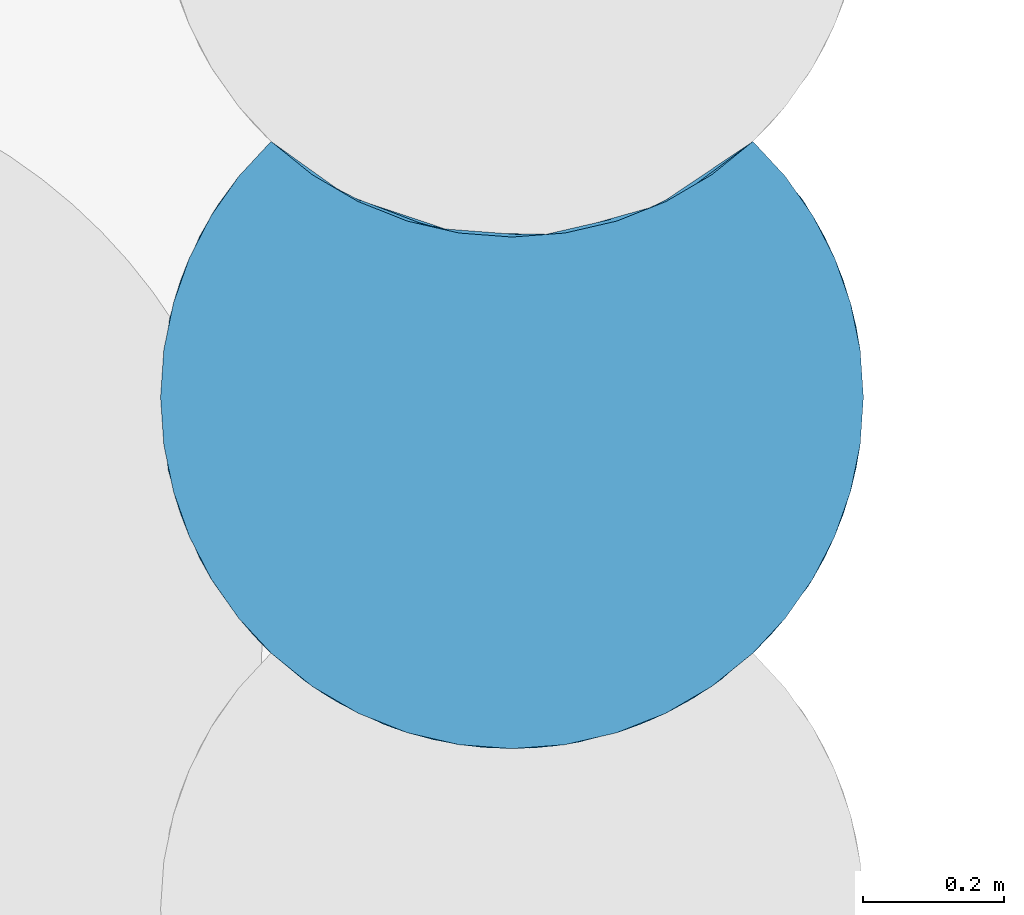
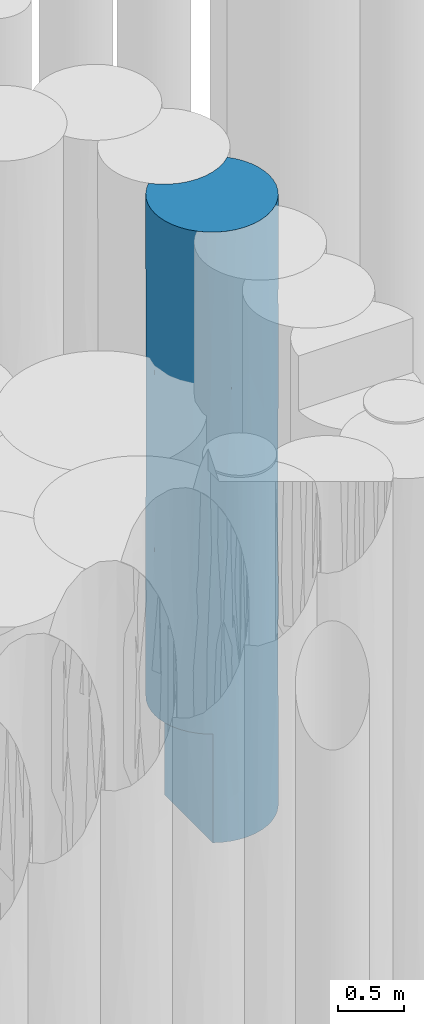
# One storey, part 44 of 104: 1 pile.
"""IFC2X3 building model written with IfcOpenShell, lengths in millimetres."""

from ifc_helpers import new_model, entity, si_unit, converted_unit, derived_unit, direction, frame, origin, place, context, subcontext, project, spatial, faceted_brep, source, transform, mapped, material, element, save


model = new_model("IFC2X3")

# Units and contexts
model_context = context("Model", 3, precision=0.01, world=origin(), true_north=direction((6.12303176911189e-17, 1.0)))
body_context = subcontext(model_context, "Body", "Model", "MODEL_VIEW")
ifc_project = project(units=[si_unit("LENGTHUNIT", "METRE", prefix="MILLI"), si_unit("AREAUNIT", "SQUARE_METRE", prefix="MILLI"), si_unit("VOLUMEUNIT", "CUBIC_METRE"), converted_unit("PLANEANGLEUNIT", "DEGREE", entity("IfcRatioMeasure", 0.0174532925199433), si_unit("PLANEANGLEUNIT", "RADIAN"), dimensions=[0, 0, 0, 0, 0, 0, 0]), si_unit("MASSUNIT", "GRAM", prefix="KILO"), derived_unit("MASSDENSITYUNIT", [(si_unit("MASSUNIT", "GRAM", prefix="KILO"), 1), (si_unit("LENGTHUNIT", "METRE"), -3)]), derived_unit("MOMENTOFINERTIAUNIT", [(si_unit("LENGTHUNIT", "METRE"), 4)]), si_unit("TIMEUNIT", "SECOND"), si_unit("FREQUENCYUNIT", "HERTZ"), si_unit("THERMODYNAMICTEMPERATUREUNIT", "DEGREE_CELSIUS"), derived_unit("THERMALTRANSMITTANCEUNIT", [(si_unit("MASSUNIT", "GRAM", prefix="KILO"), 1), (si_unit("THERMODYNAMICTEMPERATUREUNIT", "KELVIN"), -1), (si_unit("TIMEUNIT", "SECOND"), -3)]), derived_unit("VOLUMETRICFLOWRATEUNIT", [(si_unit("LENGTHUNIT", "METRE"), 3), (si_unit("TIMEUNIT", "SECOND"), -1)]), si_unit("ELECTRICCURRENTUNIT", "AMPERE"), si_unit("ELECTRICVOLTAGEUNIT", "VOLT"), si_unit("POWERUNIT", "WATT"), si_unit("FORCEUNIT", "NEWTON", prefix="KILO"), si_unit("ILLUMINANCEUNIT", "LUX"), si_unit("LUMINOUSFLUXUNIT", "LUMEN"), si_unit("LUMINOUSINTENSITYUNIT", "CANDELA"), derived_unit("USERDEFINED", [(si_unit("MASSUNIT", "GRAM", prefix="KILO"), -1), (si_unit("LENGTHUNIT", "METRE"), -2), (si_unit("TIMEUNIT", "SECOND"), 3), (si_unit("LUMINOUSFLUXUNIT", "LUMEN"), 1)]), derived_unit("LINEARVELOCITYUNIT", [(si_unit("LENGTHUNIT", "METRE"), 1), (si_unit("TIMEUNIT", "SECOND"), -1)]), si_unit("PRESSUREUNIT", "PASCAL"), derived_unit("USERDEFINED", [(si_unit("LENGTHUNIT", "METRE"), -2), (si_unit("MASSUNIT", "GRAM", prefix="KILO"), 1), (si_unit("TIMEUNIT", "SECOND"), -2)]), derived_unit("LINEARFORCEUNIT", [(si_unit("MASSUNIT", "GRAM", prefix="KILO"), 1), (si_unit("LENGTHUNIT", "METRE"), 1), (si_unit("TIMEUNIT", "SECOND"), -2), (si_unit("LENGTHUNIT", "METRE"), -1)]), derived_unit("PLANARFORCEUNIT", [(si_unit("MASSUNIT", "GRAM", prefix="KILO"), 1), (si_unit("LENGTHUNIT", "METRE"), 1), (si_unit("TIMEUNIT", "SECOND"), -2), (si_unit("LENGTHUNIT", "METRE"), -2)])], contexts=[model_context])

# Site, building, storey
site_placement = place(None, origin())
site = spatial("IfcSite", under=ifc_project, at=site_placement, Name="Theater aan de Parade", CompositionType="ELEMENT")
building_placement = place(site_placement, origin())
building = spatial("IfcBuilding", under=site, at=building_placement, Name="Theater aan de Parade", CompositionType="ELEMENT")
storey_placement = place(building_placement, frame((0.0, 0.0, -5520.0)))
storey = spatial("IfcBuildingStorey", under=building, at=storey_placement, Name="-2 kelder", CompositionType="ELEMENT", Elevation=-5520.0)

# Pile
ifc_material = material(Name="00_PBT_MAT_grout")
shared_shape = source(origin(), body_context, "Body", "Brep", [
    faceted_brep([(844.383836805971, 865.595272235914, 0.0), (890.54651868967, 815.787773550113, 0.0), (929.522999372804, 760.202813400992, 0.0), (960.609902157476, 699.85159500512, 0.0), (983.235934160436, 635.842330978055, 0.0), (996.98227680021, 569.357471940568, 0.0), (1001.59527223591, 501.595272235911, 0.0), (996.982363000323, 433.833702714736, 0.0), (983.232797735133, 367.336961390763, 0.0), (960.601026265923, 303.318400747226, 0.0), (929.506379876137, 242.960232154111, 0.0), (890.523168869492, 187.37386745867, 0.0), (844.367328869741, 137.587565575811, 0.0), (789.900252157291, 93.0854944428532, 0.0), (729.725628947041, 56.6721998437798, 0.0), (665.036786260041, 29.0628696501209, 0.0), (597.113268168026, 10.803755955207, 0.0), (527.298587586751, 2.25636970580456, 0.0), (456.973729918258, 3.5903345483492, 0.0), (387.529915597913, 14.7800152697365, 0.0), (320.34218923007, 35.6045857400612, 0.0), (256.737142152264, 65.6543403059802, 0.0), (256.737142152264, 793.654340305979, 0.0), (320.332660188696, 763.608292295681, 0.0), (387.514773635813, 742.783563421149, 0.0), (456.954548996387, 731.592053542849, 0.0), (527.278433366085, 730.255332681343, 0.0), (597.095332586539, 738.800265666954, 0.0), (665.024042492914, 757.058461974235, 0.0), (729.720490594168, 784.669565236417, 0.0), (789.902741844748, 821.087251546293, 0.0), (946.091901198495, 730.555414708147, 1043.52260300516), (844.383836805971, 865.59527223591, 1561.53796445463), (991.802660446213, 600.067179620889, 2700.88189763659), (1001.59527223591, 501.595272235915, 1561.53772532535), (973.010577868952, 668.231431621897, 1936.06593957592), (985.215355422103, 628.526809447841, 1004.42467996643), (1001.59527223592, 501.595272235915, 4058.46227467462), (1001.59527223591, 501.595272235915, 3123.0754506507), (973.010577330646, 668.231433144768, 3903.08947333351), (929.522999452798, 760.202813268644, 5620.0), (960.609902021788, 699.851595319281, 5620.0), (946.091900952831, 730.555415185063, 4676.4192162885), (913.551239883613, 784.954197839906, 2342.30656510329), (844.383836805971, 865.595272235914, 3123.07592890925), (918.831384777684, 777.120273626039, 3590.76885473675), (991.238840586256, 602.833486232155, 4676.41593122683), (844.383836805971, 865.59527223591, 2810.0), (890.546518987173, 815.787773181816, 5620.0), (1001.59527223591, 501.595272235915, 5620.0), (844.383836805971, 865.595272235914, 4058.46263982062), (844.383836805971, 865.59527223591, 4215.0), (844.383836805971, 865.595272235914, 5620.0), (844.383836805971, 865.59527223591, 1405.0), (959.857267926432, 701.585130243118, 2919.57770266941), (983.235934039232, 635.842331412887, 5620.0), (996.982276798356, 569.357471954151, 5620.0), (75.6274737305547, 239.771983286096, 1995.61399229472), (30.1805830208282, 334.957369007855, 2218.27442105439), (42.5824247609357, 303.334822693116, 1000.0), (134.88277774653, 161.710076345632, 2418.55345061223), (112.651413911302, 187.39362508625, 1000.0), (158.80670766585, 137.59527223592, 1000.0), (720.545942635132, 52.0837552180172, 5620.0), (753.846008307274, 69.8898562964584, 4632.57729967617), (785.707284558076, 90.1583214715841, 5620.0), (205.55656057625, 98.6547292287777, 1000.0), (230.643976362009, 81.3746215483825, 2134.89297890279), (422.054809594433, 7.96249900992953, 1451.97849466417), (346.510097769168, 26.2547746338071, 890.802674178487), (463.858644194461, 3.02135905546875, 2888.34534531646), (335.305702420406, 30.0575972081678, 2719.3493512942), (562.356411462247, 5.30092010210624, 1266.29474004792), (6.20734057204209, 433.839850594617, 1000.0), (1.5952722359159, 501.595272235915, 2561.53770843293), (1.5952722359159, 501.595272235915, 1000.0), (946.079419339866, 272.61089946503, 1043.5794793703), (800.820323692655, 101.01523206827, 2100.83103257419), (868.292389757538, 161.69348641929, 1387.65589207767), (868.29238979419, 161.693486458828, 2809.98987631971), (760.454010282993, 73.8194504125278, 1100.89175136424), (973.004901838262, 334.9430561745, 1936.13925481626), (985.208818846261, 374.638832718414, 1004.44881837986), (256.737142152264, 65.6543403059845, 1000.0), (112.644025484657, 187.402771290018, 5620.0), (134.87878151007, 161.714388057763, 4196.65892270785), (158.806707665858, 137.595272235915, 5620.0), (352.795268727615, 24.2499475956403, 5620.0), (389.245844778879, 14.3811446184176, 4188.02464063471), (426.337278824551, 7.29148464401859, 5620.0), (249.344536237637, 69.8898562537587, 4479.12567170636), (217.483259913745, 90.1583214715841, 5620.0), (73.6725420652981, 242.979462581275, 1000.0), (922.593400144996, 231.853587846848, 2115.32147684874), (19.9543975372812, 367.348976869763, 1000.0), (1.5952722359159, 501.595272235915, 5620.0), (1.5952722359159, 501.595272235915, 4123.07541686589), (6.20826767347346, 433.833072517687, 5620.0), (30.1799661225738, 334.959114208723, 4401.71203002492), (502.471540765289, 1.59604008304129, 2022.39135488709), (868.311763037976, 161.714388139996, 4232.3426859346), (792.130237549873, 94.668455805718, 3561.93124791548), (57.1018841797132, 272.628838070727, 3309.99400258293), (73.1041314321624, 243.922335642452, 4207.1244588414), (42.5806424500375, 303.338949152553, 5620.0), (19.9546104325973, 367.348213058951, 5620.0), (230.643976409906, 81.3746215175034, 3303.80572417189), (960.609902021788, 303.338949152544, 5620.0), (929.522999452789, 242.987731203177, 5620.0), (946.091901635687, 272.635130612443, 4676.41921033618), (959.029264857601, 299.718719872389, 2919.64207956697), (73.6675450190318, 242.987731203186, 5620.0), (596.943864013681, 10.7708168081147, 2804.93339199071), (539.331900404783, 3.02135906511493, 4273.08668055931), (722.454643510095, 53.018480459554, 2969.07538106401), (576.853265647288, 7.29148464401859, 5620.0), (665.238504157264, 29.1326889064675, 4728.7430145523), (282.644601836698, 52.0837552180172, 5620.0), (973.010578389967, 334.959114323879, 3903.08946802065), (991.556587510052, 401.906207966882, 2715.85143927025), (317.862121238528, 36.5768540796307, 1755.52061088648), (12.4038606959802, 398.194291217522, 3331.8912946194), (697.867280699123, 41.7286625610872, 2048.61973065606), (664.567992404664, 28.9009815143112, 1130.20477478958), (991.238840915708, 400.357059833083, 4676.41592103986), (983.235934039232, 367.348213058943, 5620.0), (996.982276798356, 433.833072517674, 5620.0), (152.551743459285, 143.588826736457, 3307.61325341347), (501.595272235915, 1.5952722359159, 5620.0), (926.234759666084, 237.623103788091, 3739.11688153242), (844.383836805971, 137.595272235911, 5620.0), (650.395275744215, 24.2499475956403, 5620.0), (890.546518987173, 187.402771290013, 5620.0), (685.996518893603, 36.8413801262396, 3849.22576669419), (785.695330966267, 818.150067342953, 5620.0), (720.53458465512, 780.07822308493, 5620.0), (650.386060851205, 752.247075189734, 5620.0), (576.847851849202, 735.290660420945, 5620.0), (501.595272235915, 729.595272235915, 5620.0), (426.342692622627, 735.290660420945, 5620.0), (352.804483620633, 752.247075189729, 5620.0), (282.655959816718, 780.07822308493, 5620.0), (217.495213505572, 818.150067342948, 5620.0), (158.806707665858, 865.59527223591, 5620.0), (112.651085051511, 815.796512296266, 5620.0), (73.6726367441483, 760.211238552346, 5620.0), (42.5833372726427, 699.857834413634, 5620.0), (19.9555086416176, 635.84555389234, 5620.0), (6.20818208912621, 569.356846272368, 5620.0), (422.037626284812, 735.965268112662, 809.439239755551), (158.806707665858, 865.595272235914, 1000.0), (158.806707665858, 865.595272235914, 2561.53770736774), (205.578323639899, 826.638740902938, 1000.0), (256.737142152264, 793.654340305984, 1000.0), (317.204383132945, 764.83727067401, 4600.85724456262), (562.337327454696, 733.298584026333, 1307.20068901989), (258.237007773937, 792.815287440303, 3390.49133173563), (225.507460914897, 812.73136106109, 4669.40036667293), (753.834283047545, 797.883005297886, 4692.95922475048), (340.972540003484, 756.097291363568, 1245.26829094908), (760.452843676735, 801.818744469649, 933.904601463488), (562.337327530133, 733.298584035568, 2802.30532647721), (539.329170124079, 731.021152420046, 4250.35305226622), (685.986161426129, 764.837270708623, 3987.22153552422), (341.790733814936, 755.82052670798, 2937.07933647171), (389.253215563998, 742.379445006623, 3777.86693941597), (441.601980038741, 733.207515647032, 2778.54310899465), (773.724086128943, 810.136205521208, 3787.61622226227), (677.041029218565, 761.387213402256, 849.093383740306), (672.457323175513, 759.695113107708, 4812.22637279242), (158.806707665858, 865.595272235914, 4123.0754147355), (267.680937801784, 787.685684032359, 2194.5411358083), (422.03762634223, 735.96526810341, 1681.09734198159), (415.046579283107, 737.142915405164, 4686.05792310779), (778.707993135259, 813.411971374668, 1759.56848415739), (697.858424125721, 769.724882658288, 1681.12039109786), (708.509039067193, 774.417622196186, 2842.65985011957), (57.0976620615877, 730.55350980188, 2936.01182480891), (77.6278143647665, 766.645446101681, 2004.37665318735), (30.1816560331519, 668.236210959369, 4223.57134425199), (14.2722960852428, 613.4716187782, 3074.84642249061), (30.1762796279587, 668.221000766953, 2043.51622702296), (42.5776896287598, 699.844758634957, 1000.0), (19.9506701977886, 635.828194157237, 1000.0), (73.6691815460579, 760.205521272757, 1000.0), (83.5815302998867, 775.939055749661, 4493.22792042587), (6.20537477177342, 569.336319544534, 1000.0), (112.651806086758, 815.797404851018, 1000.0)], [[[0, 1, 2, 3, 4, 5, 6, 7, 8, 9, 10, 11, 12, 13, 14, 15, 16, 17, 18, 19, 20, 21, 22, 23, 24, 25, 26, 27, 28, 29, 30]], [[31, 1, 32]], [[31, 3, 2]], [[33, 34, 35]], [[31, 36, 3]], [[37, 38, 39]], [[4, 3, 36]], [[40, 41, 42]], [[43, 44, 45]], [[42, 46, 39]], [[43, 32, 47, 44]], [[48, 40, 42]], [[49, 37, 46]], [[48, 50, 51, 52]], [[1, 0, 53, 32]], [[35, 54, 33]], [[6, 5, 34]], [[41, 55, 42]], [[5, 4, 36]], [[55, 56, 46]], [[43, 31, 32]], [[46, 42, 55]], [[50, 45, 44]], [[45, 42, 39]], [[31, 35, 36]], [[48, 42, 50]], [[1, 31, 2]], [[49, 46, 56]], [[37, 39, 46]], [[42, 45, 50]], [[54, 45, 39]], [[54, 43, 45]], [[31, 43, 35]], [[35, 34, 36]], [[5, 36, 34]], [[33, 39, 38]], [[43, 54, 35]], [[39, 33, 54]], [[34, 33, 38]], [[57, 58, 59]], [[60, 61, 62]], [[63, 64, 65]], [[66, 67, 62]], [[68, 69, 18]], [[70, 71, 68]], [[16, 72, 17]], [[73, 74, 75]], [[67, 60, 62]], [[11, 10, 76]], [[18, 69, 19]], [[77, 78, 79]], [[12, 80, 13]], [[72, 18, 17]], [[81, 76, 82]], [[34, 82, 7]], [[83, 21, 20]], [[84, 85, 86]], [[87, 88, 89]], [[90, 91, 86]], [[90, 86, 85]], [[67, 66, 83]], [[59, 92, 57]], [[93, 76, 81]], [[73, 94, 58]], [[61, 60, 57]], [[95, 96, 97]], [[98, 97, 96]], [[68, 72, 99]], [[100, 64, 101]], [[98, 102, 103]], [[103, 104, 98]], [[104, 105, 98]], [[106, 90, 85]], [[107, 108, 109]], [[93, 81, 110]], [[103, 111, 104]], [[70, 112, 113]], [[77, 101, 114]], [[115, 113, 116]], [[90, 117, 91]], [[118, 110, 119]], [[87, 90, 88]], [[67, 120, 71]], [[89, 88, 113]], [[88, 90, 106]], [[13, 80, 14]], [[73, 58, 74]], [[121, 58, 102]], [[78, 80, 12]], [[80, 122, 123]], [[70, 113, 88]], [[72, 122, 112]], [[80, 123, 14]], [[11, 78, 12]], [[123, 16, 15]], [[34, 7, 6]], [[119, 34, 38]], [[109, 124, 125]], [[124, 126, 125]], [[9, 76, 10]], [[97, 98, 105]], [[67, 106, 127]], [[82, 76, 9]], [[9, 8, 82]], [[49, 126, 124]], [[121, 96, 74]], [[38, 37, 118]], [[115, 128, 113]], [[112, 122, 114]], [[80, 77, 122]], [[121, 102, 98]], [[128, 89, 113]], [[116, 64, 63]], [[67, 71, 106]], [[109, 129, 118]], [[122, 72, 123]], [[130, 65, 64]], [[63, 131, 116]], [[130, 100, 132]], [[127, 102, 60]], [[103, 84, 111]], [[129, 110, 118]], [[118, 124, 109]], [[90, 87, 117]], [[102, 58, 57]], [[109, 132, 100]], [[60, 67, 127]], [[109, 125, 107]], [[68, 120, 69]], [[71, 88, 106]], [[18, 72, 68]], [[116, 133, 64]], [[94, 59, 58]], [[11, 76, 78]], [[132, 109, 108]], [[129, 109, 100]], [[118, 37, 124]], [[49, 124, 37]], [[101, 64, 133]], [[130, 64, 100]], [[114, 101, 133]], [[79, 100, 101]], [[67, 83, 120]], [[88, 71, 70]], [[100, 79, 129]], [[79, 93, 110]], [[79, 110, 129]], [[119, 110, 81]], [[79, 78, 93]], [[76, 93, 78]], [[96, 121, 98]], [[58, 121, 74]], [[34, 119, 81]], [[118, 119, 38]], [[78, 77, 80]], [[101, 77, 79]], [[7, 82, 8]], [[34, 81, 82]], [[115, 116, 131]], [[113, 133, 116]], [[16, 123, 72]], [[14, 123, 15]], [[69, 120, 83]], [[68, 71, 120]], [[83, 20, 69]], [[19, 69, 20]], [[133, 113, 112]], [[77, 114, 122]], [[133, 112, 114]], [[112, 70, 99]], [[106, 85, 127]], [[127, 85, 103]], [[127, 103, 102]], [[103, 85, 84]], [[61, 57, 92]], [[102, 57, 60]], [[112, 99, 72]], [[70, 68, 99]], [[134, 135, 136, 137, 138, 139, 140, 141, 142, 143, 144, 145, 146, 147, 148, 95, 97, 105, 104, 111, 84, 86, 91, 117, 87, 89, 128, 115, 131, 63, 65, 130, 132, 108, 107, 125, 126, 49, 56, 55, 41, 40, 48, 52]], [[25, 24, 149]], [[150, 151, 152]], [[23, 22, 153]], [[141, 140, 154]], [[149, 155, 26]], [[156, 157, 154]], [[52, 158, 134]], [[149, 24, 159]], [[30, 160, 0]], [[161, 162, 163]], [[164, 165, 166]], [[163, 158, 167]], [[29, 28, 168]], [[162, 169, 163]], [[143, 157, 170]], [[154, 157, 141]], [[153, 152, 171]], [[155, 149, 172, 161]], [[154, 173, 165]], [[158, 51, 167]], [[27, 26, 155]], [[53, 160, 174]], [[166, 165, 162]], [[174, 160, 175]], [[175, 160, 168]], [[136, 135, 169]], [[175, 155, 161]], [[28, 27, 168]], [[160, 30, 29]], [[139, 138, 173]], [[160, 29, 168]], [[140, 139, 173]], [[138, 137, 162]], [[159, 24, 23]], [[161, 172, 166]], [[169, 162, 137]], [[163, 169, 158]], [[175, 161, 176]], [[176, 167, 47]], [[171, 159, 153]], [[0, 160, 53]], [[134, 158, 135]], [[173, 154, 140]], [[142, 141, 157]], [[156, 154, 165]], [[51, 158, 52]], [[26, 25, 149]], [[172, 149, 159]], [[156, 151, 170]], [[151, 171, 152]], [[166, 172, 164]], [[153, 159, 23]], [[159, 171, 172]], [[156, 171, 151]], [[163, 167, 176]], [[167, 51, 50, 44, 47]], [[163, 176, 161]], [[174, 175, 176]], [[173, 162, 165]], [[162, 173, 138]], [[168, 155, 175]], [[155, 168, 27]], [[174, 47, 32, 53]], [[47, 174, 176]], [[158, 169, 135]], [[137, 136, 169]], [[161, 166, 162]], [[164, 156, 165]], [[164, 171, 156]], [[171, 164, 172]], [[142, 157, 143]], [[170, 157, 156]], [[177, 170, 151]], [[177, 151, 178]], [[179, 177, 180]], [[181, 178, 182]], [[181, 182, 183]], [[184, 182, 178]], [[180, 96, 179]], [[96, 95, 148]], [[144, 170, 185]], [[143, 170, 144]], [[181, 186, 74]], [[187, 178, 151]], [[180, 177, 181]], [[150, 187, 151]], [[186, 181, 183]], [[148, 147, 179]], [[178, 187, 184]], [[179, 185, 177]], [[186, 75, 74]], [[146, 185, 179]], [[145, 185, 146]], [[181, 177, 178]], [[148, 179, 96]], [[180, 181, 74]], [[96, 180, 74]], [[179, 147, 146]], [[144, 185, 145]], [[177, 185, 170]], [[186, 183, 182, 184, 187, 150, 152, 153, 83, 66, 62, 61, 92, 59, 94, 73, 75]], [[83, 153, 22, 21]]]),
])
pile_placement = place(storey_placement, frame((38948.2628578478, 25156.7721311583, -3840.0)))
element("IfcPile", 1, at=pile_placement, inside=storey, material=ifc_material, Name="17_PBT_SFO_grondkering_rond:Ø1000 (grondkering)", ObjectType="17_PBT_SFO_grondkering_rond:Ø1000 (grondkering)", PredefinedType="NOTDEFINED", context=body_context, shape_type="MappedRepresentation", body=[
    mapped(shared_shape, transform((0.0, 0.0, 0.0), scale=1.0)),
])

save(model, "model.ifc")
